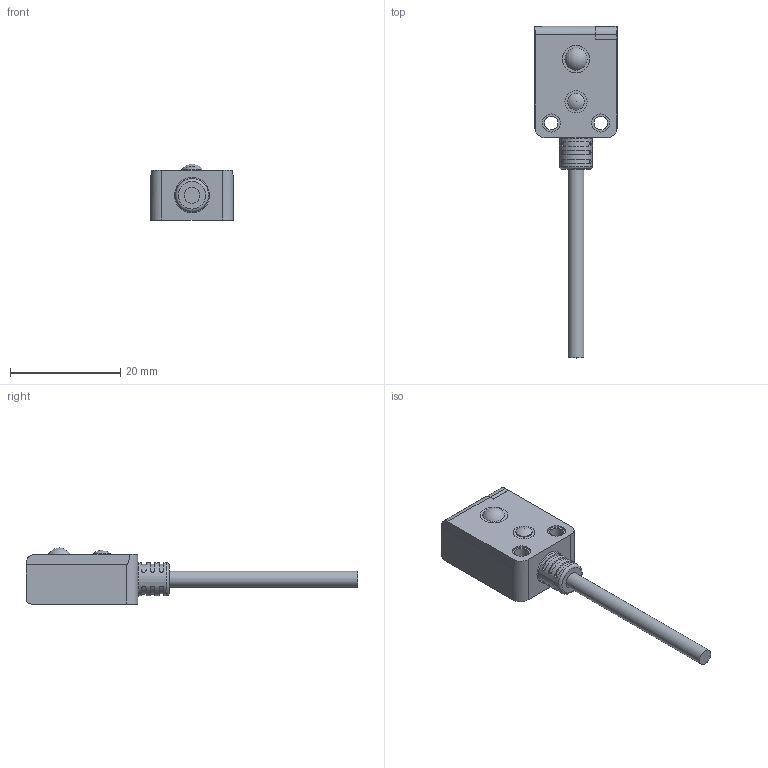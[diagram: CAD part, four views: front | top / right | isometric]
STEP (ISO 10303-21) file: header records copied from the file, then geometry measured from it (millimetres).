
FILE_DESCRIPTION( ( 'STEP AP203' ), '1' );
FILE_NAME( 'p:/temp/worker_26/2984_740/app_50_02015061609353333960622192d056f_00_00_00_000/STEP/O7H200_2_03.stp', ' ', ( ' ' ), ( ' ' ), 'PSStep 15.0.47', 'PARTsolutions', ' ' );
FILE_SCHEMA( ( 'CONFIG_CONTROL_DESIGN' ) );
Length unit declared in the file: millimetre
Products named in the file (1): _O7H200
Bounding box: 15 x 60.3 x 10.18 mm (x, y, z)
Volume: 2987.6 mm3; surface area: 1780.7 mm2
Topology: 1 solids, 1 shells, 102 faces, 253 edges, 170 vertices
Faces by surface type: plane 54, cylinder 42, torus 2, sphere 2, cone 2
Full cylindrical faces by diameter (mm): 2.459 x2, 2.9 x1, 3 x1, 3.3 x4, 4 x1, 5 x1, 6 x1
Entity records: 3101 total; most frequent: CARTESIAN_POINT 744, DIRECTION 483, ORIENTED_EDGE 440, EDGE_CURVE 220, AXIS2_PLACEMENT_3D 184, VERTEX_POINT 157, EDGE_LOOP 142, FACE_OUTER_BOUND 115
